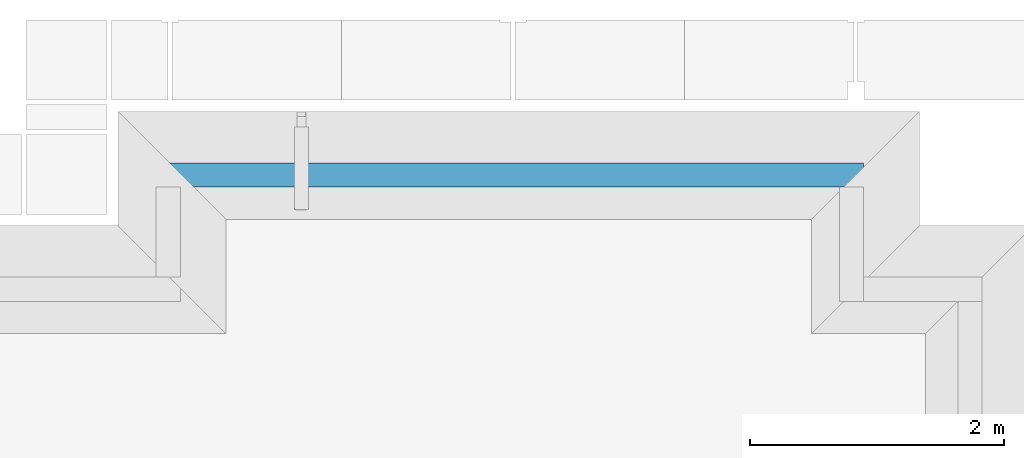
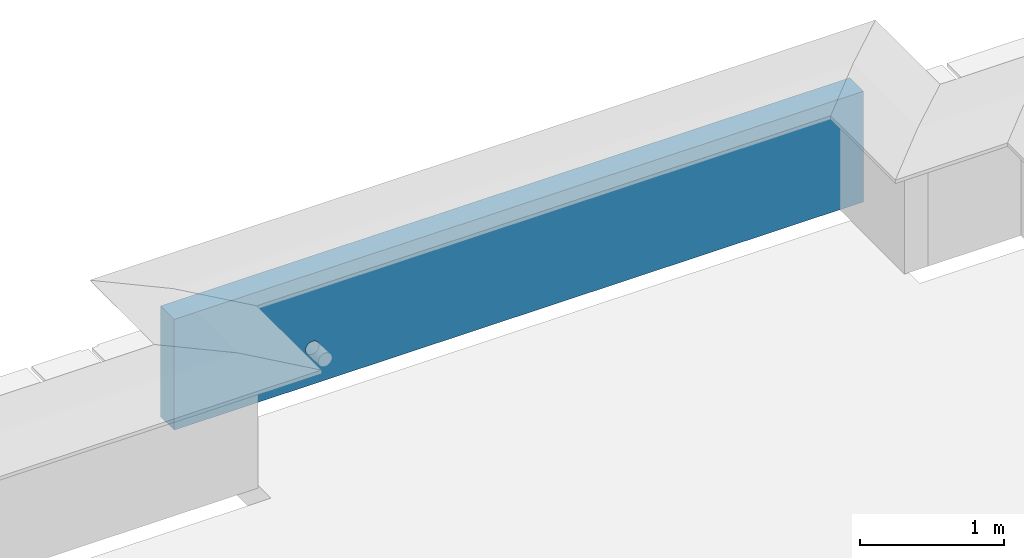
# One storey, part 28 of 38: 1 wall.
"""IFC4X3_ADD2 building model written with IfcOpenShell, lengths in millimetres."""

from ifc_helpers import new_model, si_unit, direction, frame, origin_with_axes, place, context, subcontext, project, spatial, polygons, element, save


model = new_model("IFC4X3_ADD2")

# Units and contexts
model_context = context("Model", 3, precision=1e-05, world=origin_with_axes(), true_north=direction((0.0, 1.0)))
body_context = subcontext(model_context, "Body", "Model", "MODEL_VIEW")
ifc_project = project(units=[si_unit("LENGTHUNIT", "METRE", prefix="MILLI"), si_unit("AREAUNIT", "SQUARE_METRE"), si_unit("VOLUMEUNIT", "CUBIC_METRE"), si_unit("PLANEANGLEUNIT", "RADIAN"), si_unit("TIMEUNIT", "SECOND"), si_unit("MASSUNIT", "GRAM")], contexts=[model_context])

# Site, building, storey
site_placement = place(None, origin_with_axes())
site = spatial("IfcSite", under=ifc_project, at=site_placement, Name="Site", CompositionType="ELEMENT")
building_placement = place(site_placement, origin_with_axes())
building = spatial("IfcBuilding", under=site, at=building_placement, Name="IFC Building Story")
storey_placement = place(building_placement, frame((0.0, 0.0, 10800.0), z_axis=(0.0, 0.0, 1.0), x_axis=(1.0, 0.0, 0.0)))
storey = spatial("IfcBuildingStorey", under=building, at=storey_placement, Name="030", Elevation=10800.0)

# Wall
wall_placement = place(storey_placement, frame((0.0, 0.0, -10800.0), z_axis=(0.0, 0.0, 1.0), x_axis=(1.0, 0.0, 0.0)))
element("IfcWall", 1, at=wall_placement, inside=storey, Name="Basic Wall:BB_XX_Wand uit beton, 190 mm", ObjectType="Basic Wall:BB_XX_Wand uit beton, 190 mm", PredefinedType="SOLIDWALL", context=body_context, shape_type="Tessellation", body=[
    polygons([(-5440.0, 51504.99999999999, 10600.0), (-94.99999999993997, 51504.99999999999, 10600.0), (95.00000000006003, 51504.99999999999, 10600.0), (95.00000000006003, 51504.99999999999, 11540.0), (-94.99999999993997, 51504.99999999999, 11540.0), (-5440.0, 51504.99999999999, 11540.0), (-4382.17589334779, 51504.99999999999, 10891.3668487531), (-4385.348988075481, 51504.99999999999, 10904.25177041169), (-4385.348988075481, 51504.99999999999, 10917.52230982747), (-4382.17589334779, 51504.99999999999, 10930.40723148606), (-4376.01411262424, 51504.99999999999, 10942.15771057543), (-4367.22174620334, 51504.99999999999, 10952.09085196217), (-4356.3097744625, 51504.99999999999, 10959.62937757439), (-4343.912361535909, 51504.99999999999, 10964.33517570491), (-4330.75000000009, 51504.99999999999, 10965.93476247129), (-4317.58763846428, 51504.99999999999, 10964.33517570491), (-4305.19022553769, 51504.99999999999, 10959.62937757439), (-4294.278253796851, 51504.99999999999, 10952.09085196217), (-4285.48588737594, 51504.99999999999, 10942.15771057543), (-4279.32410665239, 51504.99999999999, 10930.40723148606), (-4276.1510119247, 51504.99999999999, 10917.52230982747), (-4276.1510119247, 51504.99999999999, 10904.25177041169), (-4279.32410665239, 51504.99999999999, 10891.3668487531), (-4285.48588737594, 51504.99999999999, 10879.61636966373), (-4294.278253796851, 51504.99999999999, 10869.68322827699), (-4305.19022553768, 51504.99999999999, 10862.14470266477), (-4317.58763846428, 51504.99999999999, 10857.43890453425), (-4330.75000000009, 51504.99999999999, 10855.83931776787), (-4343.912361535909, 51504.99999999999, 10857.43890453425), (-4356.3097744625, 51504.99999999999, 10862.14470266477), (-4367.22174620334, 51504.99999999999, 10869.68322827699), (-4376.01411262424, 51504.99999999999, 10879.61636966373), (95.00000000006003, 51694.99999999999, 10600.0), (-5440.0, 51694.99999999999, 10600.0), (-5440.0, 51694.99999999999, 11540.0), (95.00000000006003, 51694.99999999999, 11540.0), (-4276.1510119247, 51694.99999999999, 10896.335103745), (-4276.1510119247, 51694.99999999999, 10909.60564316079), (-4279.32410665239, 51694.99999999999, 10922.49056481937), (-4285.48588737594, 51694.99999999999, 10934.24104390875), (-4294.278253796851, 51694.99999999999, 10944.17418529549), (-4305.19022553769, 51694.99999999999, 10951.7127109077), (-4317.58763846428, 51694.99999999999, 10956.41850903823), (-4330.75000000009, 51694.99999999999, 10958.01809580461), (-4343.912361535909, 51694.99999999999, 10956.41850903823), (-4356.3097744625, 51694.99999999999, 10951.7127109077), (-4367.22174620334, 51694.99999999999, 10944.17418529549), (-4376.01411262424, 51694.99999999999, 10934.24104390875), (-4382.17589334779, 51694.99999999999, 10922.49056481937), (-4385.348988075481, 51694.99999999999, 10909.60564316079), (-4385.348988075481, 51694.99999999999, 10896.335103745), (-4382.17589334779, 51694.99999999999, 10883.45018208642), (-4376.01411262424, 51694.99999999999, 10871.69970299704), (-4367.22174620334, 51694.99999999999, 10861.7665616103), (-4356.3097744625, 51694.99999999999, 10854.22803599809), (-4343.912361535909, 51694.99999999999, 10849.52223786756), (-4330.75000000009, 51694.99999999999, 10847.92265110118), (-4317.58763846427, 51694.99999999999, 10849.52223786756), (-4305.19022553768, 51694.99999999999, 10854.22803599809), (-4294.278253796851, 51694.99999999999, 10861.7665616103), (-4285.48588737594, 51694.99999999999, 10871.69970299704), (-4279.32410665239, 51694.99999999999, 10883.45018208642)], [[[2, 3, 4]], [[2, 4, 5]], [[32, 7, 1]], [[1, 31, 32]], [[1, 30, 31]], [[1, 29, 30]], [[1, 28, 29]], [[1, 27, 28]], [[27, 1, 2]], [[2, 26, 27]], [[2, 25, 26]], [[2, 24, 25]], [[2, 23, 24]], [[2, 22, 23]], [[2, 21, 22]], [[2, 5, 20]], [[2, 20, 21]], [[5, 19, 20]], [[5, 18, 19]], [[5, 17, 18]], [[5, 6, 17]], [[6, 16, 17]], [[6, 15, 16]], [[6, 14, 15]], [[6, 13, 14]], [[6, 12, 13]], [[6, 11, 12]], [[6, 1, 10]], [[6, 10, 11]], [[1, 9, 10]], [[1, 8, 9]], [[1, 7, 8]], [[62, 37, 33]], [[33, 61, 62]], [[33, 60, 61]], [[33, 59, 60]], [[33, 58, 59]], [[33, 57, 58]], [[33, 34, 57]], [[34, 56, 57]], [[34, 55, 56]], [[34, 54, 55]], [[34, 53, 54]], [[34, 52, 53]], [[34, 51, 52]], [[34, 50, 51]], [[34, 49, 50]], [[34, 35, 48]], [[34, 48, 49]], [[35, 47, 48]], [[35, 46, 47]], [[35, 45, 46]], [[35, 44, 45]], [[35, 43, 44]], [[35, 42, 43]], [[42, 35, 36]], [[36, 41, 42]], [[36, 40, 41]], [[36, 39, 40]], [[36, 33, 38]], [[36, 38, 39]], [[33, 37, 38]], [[2, 1, 34]], [[2, 34, 33]], [[33, 3, 2]], [[5, 4, 36]], [[36, 35, 6]], [[36, 6, 5]], [[4, 3, 33, 36]], [[9, 8, 51, 50]], [[34, 1, 6, 35]], [[22, 21, 38, 37]], [[13, 46, 45, 14]], [[14, 45, 44, 15]], [[9, 50, 49, 10]], [[11, 48, 47, 12]], [[48, 11, 10, 49]], [[12, 47, 46, 13]], [[51, 8, 7, 52]], [[52, 7, 32, 53]], [[29, 56, 55, 30]], [[55, 54, 31, 30]], [[53, 32, 31, 54]], [[56, 29, 28, 57]], [[58, 57, 28, 27]], [[58, 27, 26, 59]], [[61, 60, 25, 24]], [[24, 23, 62, 61]], [[59, 26, 25, 60]], [[37, 62, 23, 22]], [[20, 19, 40, 39]], [[21, 20, 39, 38]], [[18, 17, 42, 41]], [[16, 15, 44, 43]], [[17, 16, 43, 42]], [[19, 18, 41, 40]]]),
])

save(model, "model.ifc")
